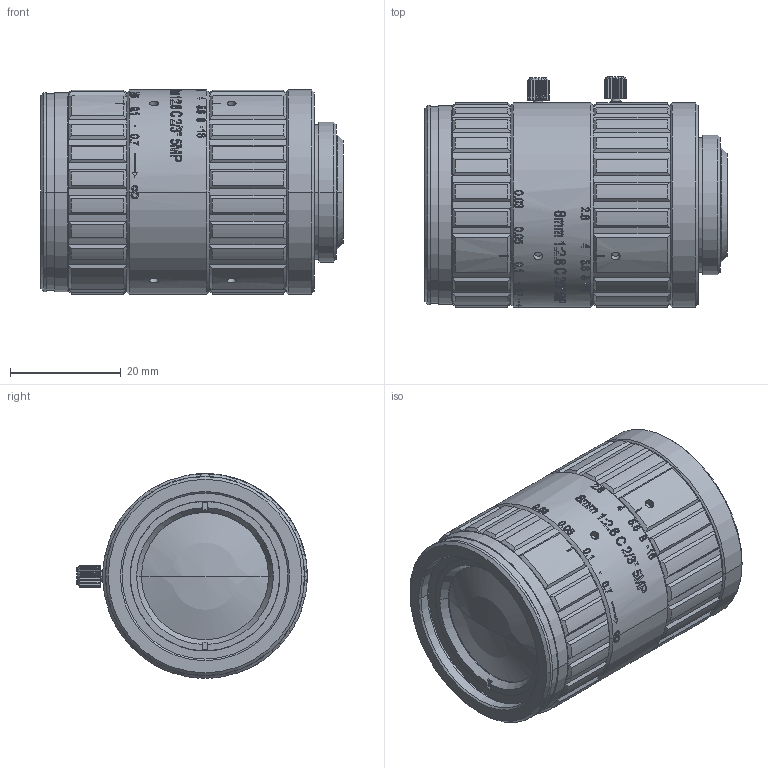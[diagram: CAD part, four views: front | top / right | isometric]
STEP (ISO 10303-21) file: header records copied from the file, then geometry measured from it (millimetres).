
FILE_DESCRIPTION((''),'2;1');
FILE_NAME('C0828-5M-V5_0','2021-01-20T17:36:36',('dell'),(''),'CREO PARAMETRIC BY PTC INC, 2019224','CREO PARAMETRIC BY PTC INC, 2019224','');
FILE_SCHEMA(('AUTOMOTIVE_DESIGN { 1 0 10303 214 1 1 1 1 }'));
Products named in the file (1): C0828-5M-V5_0
Bounding box: 54.66 x 41.76 x 37.03 mm (x, y, z)
Volume: 51733.8 mm3; surface area: 11770.3 mm2
Topology: 1 solids, 9 shells, 1536 faces, 4115 edges, 2689 vertices
Faces by surface type: bspline 552, plane 404, cylinder 377, cone 152, extrusion 35, sphere 12, torus 4
Entity records: 63913 total; most frequent: CARTESIAN_POINT 29420, ORIENTED_EDGE 8210, DIRECTION 5391, EDGE_CURVE 4105, VERTEX_POINT 2689, AXIS2_PLACEMENT_3D 1895, EDGE_LOOP 1654, B_SPLINE_CURVE_WITH_KNOTS 1628
